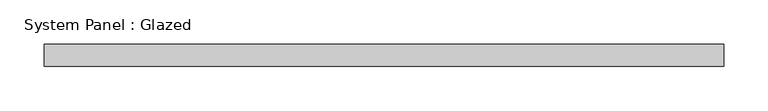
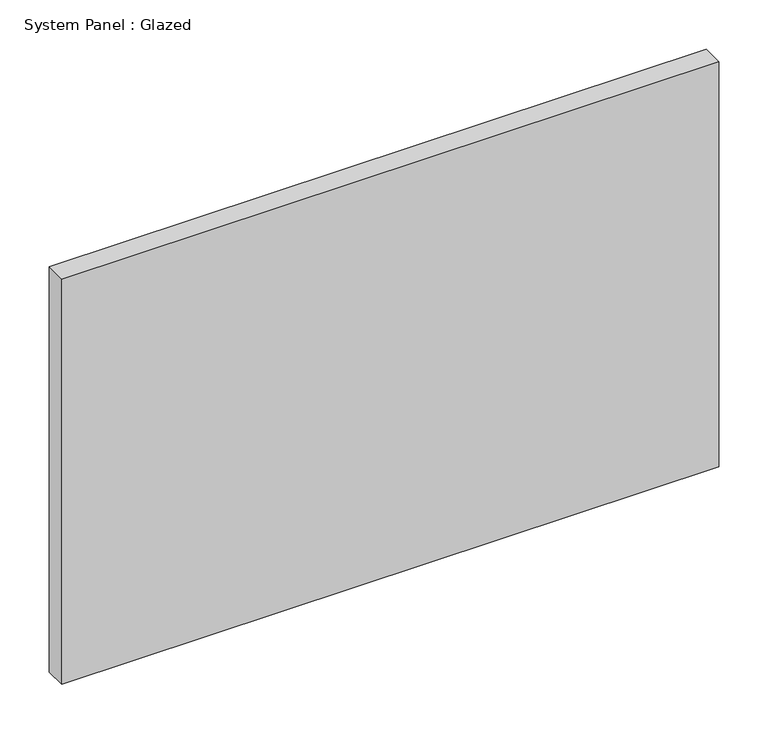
"""IFC4 building model written with IfcOpenShell, lengths in millimetres: plate geometry, System Panel : Glazed."""

from ifc_helpers import new_model, si_unit, origin, origin_with_axes, place, context, project, spatial, polyline, outline, extrude, source, transform, mapped, element, save


def system_panel_glazed_0ca214f6(model_context):
    return source(origin(), model_context, "Body", "SweptSolid", [
        extrude(outline(polyline([(383.3333334, 24.5), (-383.3333334, 24.5), (-383.3333334, 49.5), (383.3333334, 49.5), (383.3333334, 24.5)])), origin_with_axes(), (0.0, 0.0, 1.0), 500.0),
    ])


if __name__ == "__main__":
    model = new_model("IFC4")
    model_context = context("Model", 3, world=origin())
    ifc_project = project(units=[si_unit("LENGTHUNIT", "METRE", prefix="MILLI")], contexts=[model_context])
    site = spatial("IfcSite", under=ifc_project)
    building = spatial("IfcBuilding", under=site)
    placement = place(None, origin())
    system_panel_glazed_shape = system_panel_glazed_0ca214f6(model_context)
    element("IfcPlate", 1, ObjectType="System Panel : Glazed", at=placement, inside=building, context=model_context, shape_type="MappedRepresentation", body=[
        mapped(system_panel_glazed_shape, transform((0.0, 0.0, 0.0), x_axis=(1.0, 0.0, 0.0), y_axis=(0.0, 1.0, 0.0), z_axis=(0.0, 0.0, 1.0))),
    ])
    save(model, "model.ifc")
